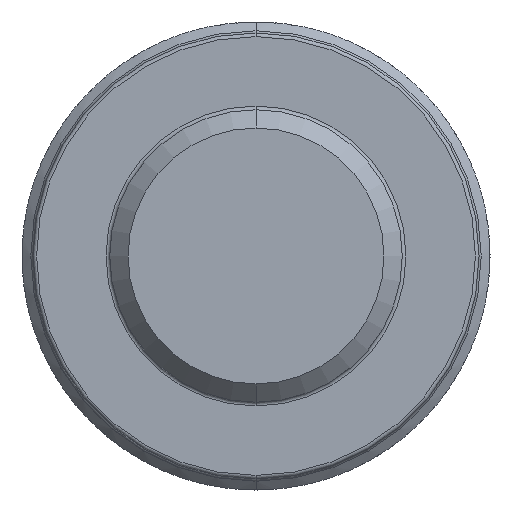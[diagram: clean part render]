
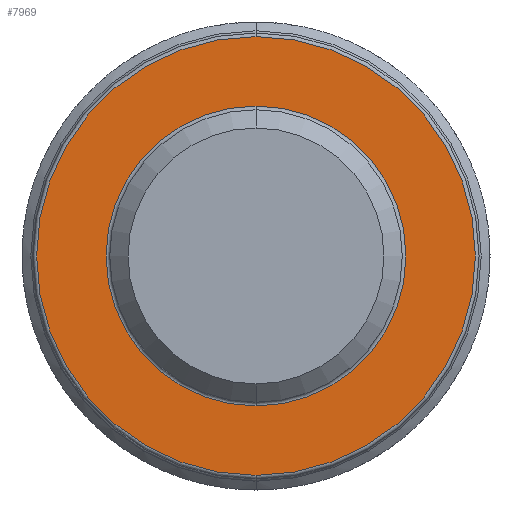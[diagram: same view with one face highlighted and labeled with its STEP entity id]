
A CAD part, front view. The second image highlights one B-rep face of the part: STEP entity #7969.
In plain terms, the highlighted planar face has unit normal (0, -1, 0).
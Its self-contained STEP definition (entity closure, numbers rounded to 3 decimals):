
#188 = CARTESIAN_POINT ( 'NONE',  ( 0., -8., -6. ) ) ;
#378 = CARTESIAN_POINT ( 'NONE',  ( 0., -8., -4.1 ) ) ;
#718 = DIRECTION ( 'NONE',  ( 0., -1., 0. ) ) ;
#848 = ORIENTED_EDGE ( 'NONE', *, *, #5881, .T. ) ;
#1257 = PLANE ( 'NONE',  #2240 ) ;
#1394 = EDGE_CURVE ( 'NONE', #5499, #2286, #2197, .T. ) ;
#1736 = CIRCLE ( 'NONE', #5918, 6. ) ;
#2029 = AXIS2_PLACEMENT_3D ( 'NONE', #6576, #718, #4559 ) ;
#2077 = CARTESIAN_POINT ( 'NONE',  ( 0., -8., 4.1 ) ) ;
#2197 = CIRCLE ( 'NONE', #3401, 4.1 ) ;
#2240 = AXIS2_PLACEMENT_3D ( 'NONE', #3796, #6358, #5771 ) ;
#2286 = VERTEX_POINT ( 'NONE', #378 ) ;
#2608 = FACE_OUTER_BOUND ( 'NONE', #4510, .T. ) ;
#2958 = CARTESIAN_POINT ( 'NONE',  ( 0., -8., 0. ) ) ;
#3234 = AXIS2_PLACEMENT_3D ( 'NONE', #3266, #6966, #8326 ) ;
#3266 = CARTESIAN_POINT ( 'NONE',  ( 0., -8., 0. ) ) ;
#3401 = AXIS2_PLACEMENT_3D ( 'NONE', #2958, #5608, #8184 ) ;
#3723 = CARTESIAN_POINT ( 'NONE',  ( 0., -8., 6. ) ) ;
#3796 = CARTESIAN_POINT ( 'NONE',  ( 4., -8., 0. ) ) ;
#4444 = CIRCLE ( 'NONE', #3234, 4.1 ) ;
#4510 = EDGE_LOOP ( 'NONE', ( #7735, #848 ) ) ;
#4559 = DIRECTION ( 'NONE',  ( 0., 0., -1. ) ) ;
#4805 = VERTEX_POINT ( 'NONE', #188 ) ;
#5310 = ORIENTED_EDGE ( 'NONE', *, *, #1394, .T. ) ;
#5314 = EDGE_CURVE ( 'NONE', #2286, #5499, #4444, .T. ) ;
#5334 = DIRECTION ( 'NONE',  ( 0., 0., -1. ) ) ;
#5499 = VERTEX_POINT ( 'NONE', #2077 ) ;
#5608 = DIRECTION ( 'NONE',  ( 0., 1., 0. ) ) ;
#5665 = CIRCLE ( 'NONE', #2029, 6. ) ;
#5766 = VERTEX_POINT ( 'NONE', #3723 ) ;
#5771 = DIRECTION ( 'NONE',  ( 0., 0., -1. ) ) ;
#5881 = EDGE_CURVE ( 'NONE', #5766, #4805, #5665, .T. ) ;
#5891 = DIRECTION ( 'NONE',  ( 0., -1., 0. ) ) ;
#5918 = AXIS2_PLACEMENT_3D ( 'NONE', #7741, #5891, #5334 ) ;
#6239 = EDGE_LOOP ( 'NONE', ( #6625, #5310 ) ) ;
#6358 = DIRECTION ( 'NONE',  ( 0., -1., 0. ) ) ;
#6576 = CARTESIAN_POINT ( 'NONE',  ( 0., -8., 0. ) ) ;
#6625 = ORIENTED_EDGE ( 'NONE', *, *, #5314, .T. ) ;
#6966 = DIRECTION ( 'NONE',  ( 0., 1., 0. ) ) ;
#7045 = EDGE_CURVE ( 'NONE', #4805, #5766, #1736, .T. ) ;
#7709 = FACE_BOUND ( 'NONE', #6239, .T. ) ;
#7735 = ORIENTED_EDGE ( 'NONE', *, *, #7045, .T. ) ;
#7741 = CARTESIAN_POINT ( 'NONE',  ( 0., -8., 0. ) ) ;
#7969 = ADVANCED_FACE ( 'NONE', ( #7709, #2608 ), #1257, .T. ) ;
#8184 = DIRECTION ( 'NONE',  ( 0., 0., -1. ) ) ;
#8326 = DIRECTION ( 'NONE',  ( 0., 0., -1. ) ) ;
